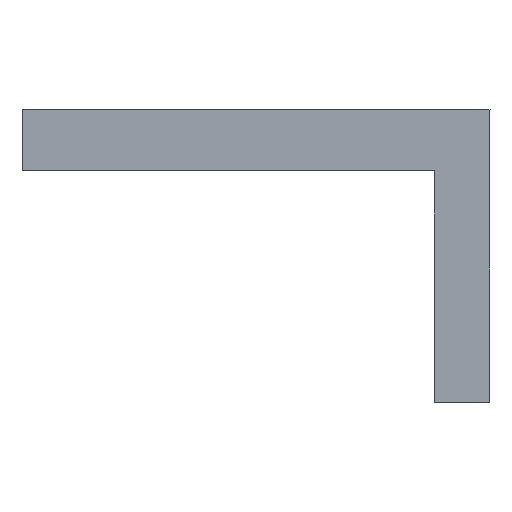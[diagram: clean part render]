
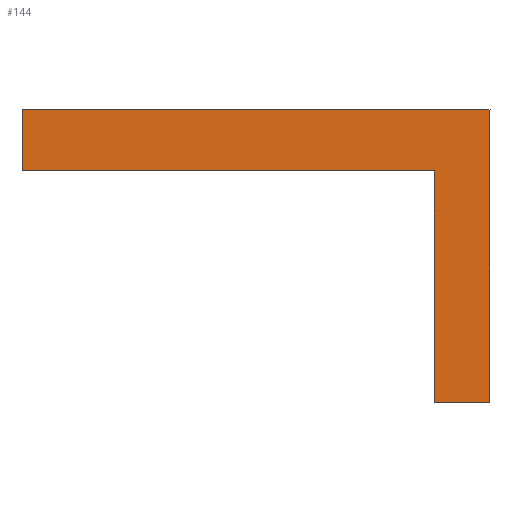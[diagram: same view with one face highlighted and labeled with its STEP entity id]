
A CAD part, top view. The second image highlights one B-rep face of the part: STEP entity #144.
In plain terms, the highlighted planar face has unit normal (0, 0, 1).
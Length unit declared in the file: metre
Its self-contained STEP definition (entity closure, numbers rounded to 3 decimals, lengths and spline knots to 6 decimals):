
#36=ORIENTED_EDGE('',*,*,#65,.T.);
#37=ORIENTED_EDGE('',*,*,#63,.T.);
#38=ORIENTED_EDGE('',*,*,#60,.T.);
#39=ORIENTED_EDGE('',*,*,#57,.T.);
#40=ORIENTED_EDGE('',*,*,#54,.T.);
#41=ORIENTED_EDGE('',*,*,#51,.T.);
#51=EDGE_CURVE('',#66,#69,#81,.T.);
#54=EDGE_CURVE('',#70,#66,#84,.F.);
#57=EDGE_CURVE('',#72,#70,#87,.F.);
#60=EDGE_CURVE('',#74,#72,#90,.T.);
#63=EDGE_CURVE('',#76,#74,#93,.F.);
#65=EDGE_CURVE('',#69,#76,#95,.T.);
#66=VERTEX_POINT('',#198);
#69=VERTEX_POINT('',#203);
#70=VERTEX_POINT('',#207);
#72=VERTEX_POINT('',#213);
#74=VERTEX_POINT('',#219);
#76=VERTEX_POINT('',#225);
#81=LINE('',#204,#99);
#84=LINE('',#210,#102);
#87=LINE('',#216,#105);
#90=LINE('',#222,#108);
#93=LINE('',#228,#111);
#95=LINE('',#231,#113);
#99=VECTOR('',#166,1.);
#102=VECTOR('',#171,1.);
#105=VECTOR('',#176,1.);
#108=VECTOR('',#181,1.);
#111=VECTOR('',#186,1.);
#113=VECTOR('',#190,1.);
#120=EDGE_LOOP('',(#36,#37,#38,#39,#40,#41));
#128=FACE_BOUND('',#120,.T.);
#136=PLANE('',#157);
#144=ADVANCED_FACE('',(#128),#136,.F.);
#157=AXIS2_PLACEMENT_3D('',#232,#191,#192);
#166=DIRECTION('',(-1.,0.,0.));
#171=DIRECTION('',(0.,-1.,0.));
#176=DIRECTION('',(-1.,0.,0.));
#181=DIRECTION('',(0.,-1.,0.));
#186=DIRECTION('',(-1.,0.,0.));
#190=DIRECTION('',(0.,-1.,0.));
#191=DIRECTION('',(0.,0.,-1.));
#192=DIRECTION('',(0.,-1.,0.));
#198=CARTESIAN_POINT('',(-0.017988,0.003798,-0.03));
#203=CARTESIAN_POINT('',(-0.018923,0.003798,-0.03));
#204=CARTESIAN_POINT('',(-0.018331,0.003798,-0.03));
#207=CARTESIAN_POINT('',(-0.017988,0.003213,-0.03));
#210=CARTESIAN_POINT('',(-0.017988,0.003631,-0.03));
#213=CARTESIAN_POINT('',(-0.0181,0.003213,-0.03));
#216=CARTESIAN_POINT('',(-0.018331,0.003213,-0.03));
#219=CARTESIAN_POINT('',(-0.0181,0.003675,-0.03));
#222=CARTESIAN_POINT('',(-0.0181,0.003631,-0.03));
#225=CARTESIAN_POINT('',(-0.018923,0.003675,-0.03));
#228=CARTESIAN_POINT('',(-0.018331,0.003675,-0.03));
#231=CARTESIAN_POINT('',(-0.018923,0.003631,-0.03));
#232=CARTESIAN_POINT('',(-0.018331,0.003631,-0.03));
